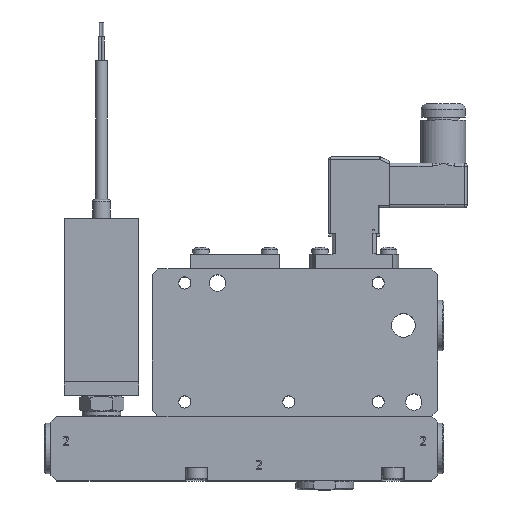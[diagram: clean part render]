
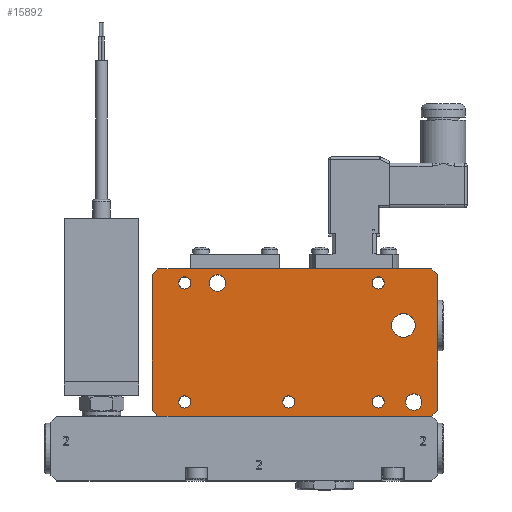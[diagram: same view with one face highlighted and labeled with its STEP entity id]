
A CAD part, top view. The second image highlights one B-rep face of the part: STEP entity #15892.
In plain terms, the highlighted planar face has unit normal (0, 0, 1).
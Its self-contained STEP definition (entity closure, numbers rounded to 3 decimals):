
#389=FACE_BOUND('',#2858,.T.);
#390=FACE_BOUND('',#2859,.T.);
#391=FACE_BOUND('',#2860,.T.);
#392=FACE_BOUND('',#2861,.T.);
#393=FACE_BOUND('',#2862,.T.);
#394=FACE_BOUND('',#2863,.T.);
#395=FACE_BOUND('',#2864,.T.);
#396=FACE_BOUND('',#2865,.T.);
#545=PLANE('',#17245);
#1927=FACE_OUTER_BOUND('',#2857,.T.);
#2857=EDGE_LOOP('',(#11203,#11204,#11205,#11206,#11207,#11208,#11209,#11210));
#2858=EDGE_LOOP('',(#11211));
#2859=EDGE_LOOP('',(#11212));
#2860=EDGE_LOOP('',(#11213));
#2861=EDGE_LOOP('',(#11214));
#2862=EDGE_LOOP('',(#11215));
#2863=EDGE_LOOP('',(#11216));
#2864=EDGE_LOOP('',(#11217));
#2865=EDGE_LOOP('',(#11218));
#4264=LINE('',#22590,#5588);
#4265=LINE('',#22592,#5589);
#4266=LINE('',#22594,#5590);
#4267=LINE('',#22596,#5591);
#4268=LINE('',#22598,#5592);
#4269=LINE('',#22600,#5593);
#4270=LINE('',#22602,#5594);
#4271=LINE('',#22603,#5595);
#5588=VECTOR('',#18616,10.);
#5589=VECTOR('',#18617,10.);
#5590=VECTOR('',#18618,10.);
#5591=VECTOR('',#18619,10.);
#5592=VECTOR('',#18620,10.);
#5593=VECTOR('',#18621,10.);
#5594=VECTOR('',#18622,10.);
#5595=VECTOR('',#18623,10.);
#6921=CIRCLE('',#17236,2.05);
#6922=CIRCLE('',#17238,2.05);
#6923=CIRCLE('',#17240,2.05);
#6924=CIRCLE('',#17242,2.05);
#6925=CIRCLE('',#17244,2.05);
#6926=CIRCLE('',#17246,2.75);
#6927=CIRCLE('',#17247,2.75);
#6928=CIRCLE('',#17248,4.);
#7411=VERTEX_POINT('',#22568);
#7412=VERTEX_POINT('',#22572);
#7413=VERTEX_POINT('',#22576);
#7414=VERTEX_POINT('',#22580);
#7415=VERTEX_POINT('',#22584);
#7416=VERTEX_POINT('',#22588);
#7417=VERTEX_POINT('',#22589);
#7418=VERTEX_POINT('',#22591);
#7419=VERTEX_POINT('',#22593);
#7420=VERTEX_POINT('',#22595);
#7421=VERTEX_POINT('',#22597);
#7422=VERTEX_POINT('',#22599);
#7423=VERTEX_POINT('',#22601);
#7424=VERTEX_POINT('',#22604);
#7425=VERTEX_POINT('',#22606);
#7426=VERTEX_POINT('',#22608);
#8897=EDGE_CURVE('',#7411,#7411,#6921,.T.);
#8899=EDGE_CURVE('',#7412,#7412,#6922,.T.);
#8901=EDGE_CURVE('',#7413,#7413,#6923,.T.);
#8903=EDGE_CURVE('',#7414,#7414,#6924,.T.);
#8905=EDGE_CURVE('',#7415,#7415,#6925,.T.);
#8907=EDGE_CURVE('',#7416,#7417,#4264,.T.);
#8908=EDGE_CURVE('',#7416,#7418,#4265,.T.);
#8909=EDGE_CURVE('',#7419,#7418,#4266,.T.);
#8910=EDGE_CURVE('',#7419,#7420,#4267,.T.);
#8911=EDGE_CURVE('',#7421,#7420,#4268,.T.);
#8912=EDGE_CURVE('',#7421,#7422,#4269,.T.);
#8913=EDGE_CURVE('',#7423,#7422,#4270,.T.);
#8914=EDGE_CURVE('',#7423,#7417,#4271,.T.);
#8915=EDGE_CURVE('',#7424,#7424,#6926,.T.);
#8916=EDGE_CURVE('',#7425,#7425,#6927,.T.);
#8917=EDGE_CURVE('',#7426,#7426,#6928,.T.);
#11203=ORIENTED_EDGE('',*,*,#8907,.F.);
#11204=ORIENTED_EDGE('',*,*,#8908,.T.);
#11205=ORIENTED_EDGE('',*,*,#8909,.F.);
#11206=ORIENTED_EDGE('',*,*,#8910,.T.);
#11207=ORIENTED_EDGE('',*,*,#8911,.F.);
#11208=ORIENTED_EDGE('',*,*,#8912,.T.);
#11209=ORIENTED_EDGE('',*,*,#8913,.F.);
#11210=ORIENTED_EDGE('',*,*,#8914,.T.);
#11211=ORIENTED_EDGE('',*,*,#8915,.T.);
#11212=ORIENTED_EDGE('',*,*,#8916,.T.);
#11213=ORIENTED_EDGE('',*,*,#8897,.T.);
#11214=ORIENTED_EDGE('',*,*,#8899,.T.);
#11215=ORIENTED_EDGE('',*,*,#8901,.T.);
#11216=ORIENTED_EDGE('',*,*,#8903,.T.);
#11217=ORIENTED_EDGE('',*,*,#8905,.T.);
#11218=ORIENTED_EDGE('',*,*,#8917,.T.);
#15892=ADVANCED_FACE('',(#1927,#389,#390,#391,#392,#393,#394,#395,#396),
#545,.T.);
#17236=AXIS2_PLACEMENT_3D('',#22569,#18591,#18592);
#17238=AXIS2_PLACEMENT_3D('',#22573,#18596,#18597);
#17240=AXIS2_PLACEMENT_3D('',#22577,#18601,#18602);
#17242=AXIS2_PLACEMENT_3D('',#22581,#18606,#18607);
#17244=AXIS2_PLACEMENT_3D('',#22585,#18611,#18612);
#17245=AXIS2_PLACEMENT_3D('',#22587,#18614,#18615);
#17246=AXIS2_PLACEMENT_3D('',#22605,#18624,#18625);
#17247=AXIS2_PLACEMENT_3D('',#22607,#18626,#18627);
#17248=AXIS2_PLACEMENT_3D('',#22609,#18628,#18629);
#18591=DIRECTION('center_axis',(0.,0.,
-1.));
#18592=DIRECTION('ref_axis',(1.,0.,0.));
#18596=DIRECTION('center_axis',(0.,0.,
-1.));
#18597=DIRECTION('ref_axis',(1.,0.,0.));
#18601=DIRECTION('center_axis',(0.,0.,
-1.));
#18602=DIRECTION('ref_axis',(1.,0.,0.));
#18606=DIRECTION('center_axis',(0.,0.,
-1.));
#18607=DIRECTION('ref_axis',(1.,0.,0.));
#18611=DIRECTION('center_axis',(0.,0.,
-1.));
#18612=DIRECTION('ref_axis',(1.,0.,0.));
#18614=DIRECTION('center_axis',(0.,0.,
1.));
#18615=DIRECTION('ref_axis',(1.,0.,0.));
#18616=DIRECTION('',(-0.707,-0.707,0.));
#18617=DIRECTION('',(0.,1.,0.));
#18618=DIRECTION('',(0.707,-0.707,0.));
#18619=DIRECTION('',(-1.,0.,0.));
#18620=DIRECTION('',(0.707,0.707,0.));
#18621=DIRECTION('',(0.,-1.,0.));
#18622=DIRECTION('',(-0.707,0.707,0.));
#18623=DIRECTION('',(1.,0.,0.));
#18624=DIRECTION('center_axis',(0.,0.,
-1.));
#18625=DIRECTION('ref_axis',(-1.,0.,0.));
#18626=DIRECTION('center_axis',(0.,0.,
-1.));
#18627=DIRECTION('ref_axis',(-1.,0.,0.));
#18628=DIRECTION('center_axis',(0.,0.,
-1.));
#18629=DIRECTION('ref_axis',(1.,0.,0.));
#22568=CARTESIAN_POINT('',(-8.288,42.299,18.089));
#22569=CARTESIAN_POINT('Origin',(-6.238,42.299,18.089));
#22572=CARTESIAN_POINT('',(26.712,2.299,18.089));
#22573=CARTESIAN_POINT('Origin',(28.762,2.299,18.089));
#22576=CARTESIAN_POINT('',(56.712,2.299,18.089));
#22577=CARTESIAN_POINT('Origin',(58.762,2.299,18.089));
#22580=CARTESIAN_POINT('',(-8.288,2.299,18.089));
#22581=CARTESIAN_POINT('Origin',(-6.238,2.299,18.089));
#22584=CARTESIAN_POINT('',(56.712,42.299,18.089));
#22585=CARTESIAN_POINT('Origin',(58.762,42.299,18.089));
#22587=CARTESIAN_POINT('Origin',(30.762,22.299,18.089));
#22588=CARTESIAN_POINT('',(78.762,-0.451,18.089));
#22589=CARTESIAN_POINT('',(76.762,-2.451,18.089));
#22590=CARTESIAN_POINT('',(71.949,-7.264,18.089));
#22591=CARTESIAN_POINT('',(78.762,45.049,18.089));
#22592=CARTESIAN_POINT('',(78.762,47.049,18.089));
#22593=CARTESIAN_POINT('',(76.762,47.049,18.089));
#22594=CARTESIAN_POINT('',(71.949,51.861,18.089));
#22595=CARTESIAN_POINT('',(-15.238,47.049,18.089));
#22596=CARTESIAN_POINT('',(-17.238,47.049,18.089));
#22597=CARTESIAN_POINT('',(-17.238,45.049,18.089));
#22598=CARTESIAN_POINT('',(-10.426,51.861,18.089));
#22599=CARTESIAN_POINT('',(-17.238,-0.451,18.089));
#22600=CARTESIAN_POINT('',(-17.238,-2.451,18.089));
#22601=CARTESIAN_POINT('',(-15.238,-2.451,18.089));
#22602=CARTESIAN_POINT('',(-10.426,-7.264,18.089));
#22603=CARTESIAN_POINT('',(78.762,-2.451,18.089));
#22604=CARTESIAN_POINT('',(2.012,42.299,18.089));
#22605=CARTESIAN_POINT('Origin',(4.762,42.299,18.089));
#22606=CARTESIAN_POINT('',(68.012,2.299,18.089));
#22607=CARTESIAN_POINT('Origin',(70.762,2.299,18.089));
#22608=CARTESIAN_POINT('',(63.262,28.049,18.089));
#22609=CARTESIAN_POINT('Origin',(67.262,28.049,18.089));
